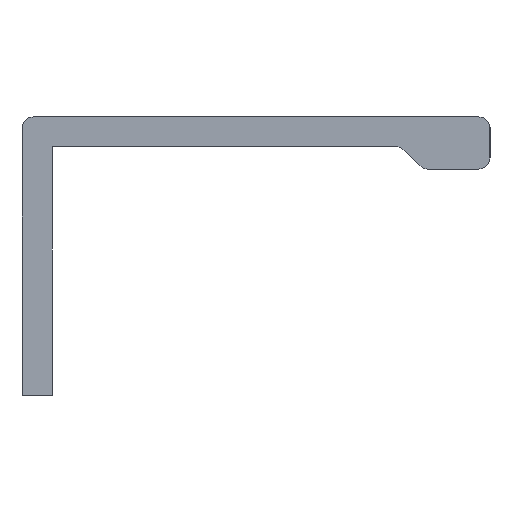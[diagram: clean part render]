
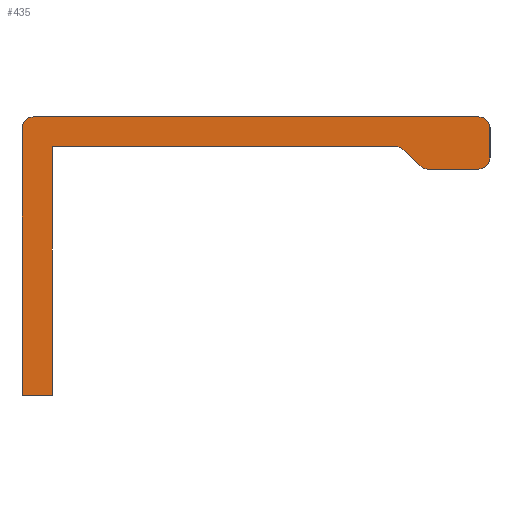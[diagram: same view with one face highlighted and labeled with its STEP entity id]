
A CAD part, left-side view. The second image highlights one B-rep face of the part: STEP entity #435.
In plain terms, the highlighted planar face has unit normal (-1, 0, 0).
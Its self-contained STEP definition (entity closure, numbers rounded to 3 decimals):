
#219 = EDGE_CURVE( '', #585, #459, #614, .T. );
#257 = VERTEX_POINT( '', #665 );
#275 = EDGE_CURVE( '', #459, #465, #686, .T. );
#277 = EDGE_CURVE( '', #313, #327, #688, .T. );
#281 = VERTEX_POINT( '', #692 );
#283 = VERTEX_POINT( '', #694 );
#297 = VERTEX_POINT( '', #710 );
#301 = EDGE_CURVE( '', #281, #545, #714, .T. );
#313 = VERTEX_POINT( '', #728 );
#321 = EDGE_CURVE( '', #545, #349, #736, .T. );
#327 = VERTEX_POINT( '', #743 );
#349 = VERTEX_POINT( '', #767 );
#357 = EDGE_CURVE( '', #349, #535, #776, .T. );
#359 = EDGE_CURVE( '', #327, #281, #778, .T. );
#373 = EDGE_CURVE( '', #453, #585, #793, .T. );
#375 = EDGE_CURVE( '', #297, #257, #795, .T. );
#423 = EDGE_CURVE( '', #535, #453, #860, .T. );
#433 = EDGE_CURVE( '', #283, #313, #870, .T. );
#435 = ADVANCED_FACE( '', ( #872 ), #873, .F. );
#447 = EDGE_CURVE( '', #465, #297, #886, .T. );
#453 = VERTEX_POINT( '', #892 );
#459 = VERTEX_POINT( '', #898 );
#465 = VERTEX_POINT( '', #905 );
#507 = EDGE_CURVE( '', #257, #283, #948, .T. );
#535 = VERTEX_POINT( '', #976 );
#545 = VERTEX_POINT( '', #987 );
#585 = VERTEX_POINT( '', #1029 );
#614 = LINE( '', #1050, #1051 );
#665 = CARTESIAN_POINT( '', ( -104., -38.3, 15. ) );
#686 = LINE( '', #1142, #1143 );
#688 = CIRCLE( '', #1146, 1. );
#692 = CARTESIAN_POINT( '', ( -104., -33.714, 10.3 ) );
#694 = CARTESIAN_POINT( '', ( -104., -39.3, 14. ) );
#710 = CARTESIAN_POINT( '', ( -104., 1.7, 15. ) );
#714 = CIRCLE( '', #1179, 1. );
#728 = CARTESIAN_POINT( '', ( -104., -39.3, 11.3 ) );
#736 = LINE( '', #1211, #1212 );
#743 = CARTESIAN_POINT( '', ( -104., -38.3, 10.3 ) );
#767 = CARTESIAN_POINT( '', ( -104., -31.593, 12.007 ) );
#776 = CIRCLE( '', #1267, 1. );
#778 = LINE( '', #1270, #1271 );
#793 = LINE( '', #1291, #1292 );
#795 = LINE( '', #1295, #1296 );
#860 = LINE( '', #1375, #1376 );
#870 = LINE( '', #1390, #1391 );
#872 = FACE_OUTER_BOUND( '', #1393, .T. );
#873 = PLANE( '', #1394 );
#886 = CIRCLE( '', #1411, 1. );
#892 = CARTESIAN_POINT( '', ( -104., 0., 12.3 ) );
#898 = CARTESIAN_POINT( '', ( -104., 2.7, -10. ) );
#905 = CARTESIAN_POINT( '', ( -104., 2.7, 14. ) );
#948 = CIRCLE( '', #1487, 1. );
#976 = CARTESIAN_POINT( '', ( -104., -30.886, 12.3 ) );
#987 = CARTESIAN_POINT( '', ( -104., -33.007, 10.593 ) );
#1029 = CARTESIAN_POINT( '', ( -104., 0., -10. ) );
#1050 = CARTESIAN_POINT( '', ( -104., 0., -10. ) );
#1051 = VECTOR( '', #1618, 1. );
#1142 = CARTESIAN_POINT( '', ( -104., 2.7, -10. ) );
#1143 = VECTOR( '', #1717, 1. );
#1146 = AXIS2_PLACEMENT_3D( '', #1718, #1719, #1720 );
#1179 = AXIS2_PLACEMENT_3D( '', #1750, #1751, #1752 );
#1211 = CARTESIAN_POINT( '', ( -104., -33.007, 10.593 ) );
#1212 = VECTOR( '', #1776, 1. );
#1267 = AXIS2_PLACEMENT_3D( '', #1826, #1827, #1828 );
#1270 = CARTESIAN_POINT( '', ( -104., -38.3, 10.3 ) );
#1271 = VECTOR( '', #1829, 1. );
#1291 = CARTESIAN_POINT( '', ( -104., 0., 12.3 ) );
#1292 = VECTOR( '', #1845, 1. );
#1295 = CARTESIAN_POINT( '', ( -104., 1.7, 15. ) );
#1296 = VECTOR( '', #1846, 1. );
#1375 = CARTESIAN_POINT( '', ( -104., -30.886, 12.3 ) );
#1376 = VECTOR( '', #1943, 1. );
#1390 = CARTESIAN_POINT( '', ( -104., -39.3, 14. ) );
#1391 = VECTOR( '', #1952, 1. );
#1393 = EDGE_LOOP( '', ( #1954, #1955, #1956, #1957, #1958, #1959, #1960, #1961, #1962, #1963, #1964, #1965, #1966 ) );
#1394 = AXIS2_PLACEMENT_3D( '', #1967, #1968, #1969 );
#1411 = AXIS2_PLACEMENT_3D( '', #1982, #1983, #1984 );
#1487 = AXIS2_PLACEMENT_3D( '', #2029, #2030, #2031 );
#1618 = DIRECTION( '', ( 0., 1., 0. ) );
#1717 = DIRECTION( '', ( 0., 0., 1. ) );
#1718 = CARTESIAN_POINT( '', ( -104., -38.3, 11.3 ) );
#1719 = DIRECTION( '', ( 1., 0., 0. ) );
#1720 = DIRECTION( '', ( 0., -1., 0. ) );
#1750 = CARTESIAN_POINT( '', ( -104., -33.714, 11.3 ) );
#1751 = DIRECTION( '', ( 1., 0., 0. ) );
#1752 = DIRECTION( '', ( 0., 0., -1. ) );
#1776 = DIRECTION( '', ( 0., 0.707, 0.707 ) );
#1826 = CARTESIAN_POINT( '', ( -104., -30.886, 11.3 ) );
#1827 = DIRECTION( '', ( -1., 0., 0. ) );
#1828 = DIRECTION( '', ( 0., -0.707, 0.707 ) );
#1829 = DIRECTION( '', ( 0., 1., 0. ) );
#1845 = DIRECTION( '', ( 0., 0., -1. ) );
#1846 = DIRECTION( '', ( 0., -1., 0. ) );
#1943 = DIRECTION( '', ( 0., 1., 0. ) );
#1952 = DIRECTION( '', ( 0., 0., -1. ) );
#1954 = ORIENTED_EDGE( '', *, *, #375, .F. );
#1955 = ORIENTED_EDGE( '', *, *, #447, .F. );
#1956 = ORIENTED_EDGE( '', *, *, #275, .F. );
#1957 = ORIENTED_EDGE( '', *, *, #219, .F. );
#1958 = ORIENTED_EDGE( '', *, *, #373, .F. );
#1959 = ORIENTED_EDGE( '', *, *, #423, .F. );
#1960 = ORIENTED_EDGE( '', *, *, #357, .F. );
#1961 = ORIENTED_EDGE( '', *, *, #321, .F. );
#1962 = ORIENTED_EDGE( '', *, *, #301, .F. );
#1963 = ORIENTED_EDGE( '', *, *, #359, .F. );
#1964 = ORIENTED_EDGE( '', *, *, #277, .F. );
#1965 = ORIENTED_EDGE( '', *, *, #433, .F. );
#1966 = ORIENTED_EDGE( '', *, *, #507, .F. );
#1967 = CARTESIAN_POINT( '', ( -104., 0., 0. ) );
#1968 = DIRECTION( '', ( 1., 0., 0. ) );
#1969 = DIRECTION( '', ( 0., 0., -1. ) );
#1982 = CARTESIAN_POINT( '', ( -104., 1.7, 14. ) );
#1983 = DIRECTION( '', ( 1., 0., 0. ) );
#1984 = DIRECTION( '', ( 0., 1., 0. ) );
#2029 = CARTESIAN_POINT( '', ( -104., -38.3, 14. ) );
#2030 = DIRECTION( '', ( 1., 0., 0. ) );
#2031 = DIRECTION( '', ( 0., 0., 1. ) );
